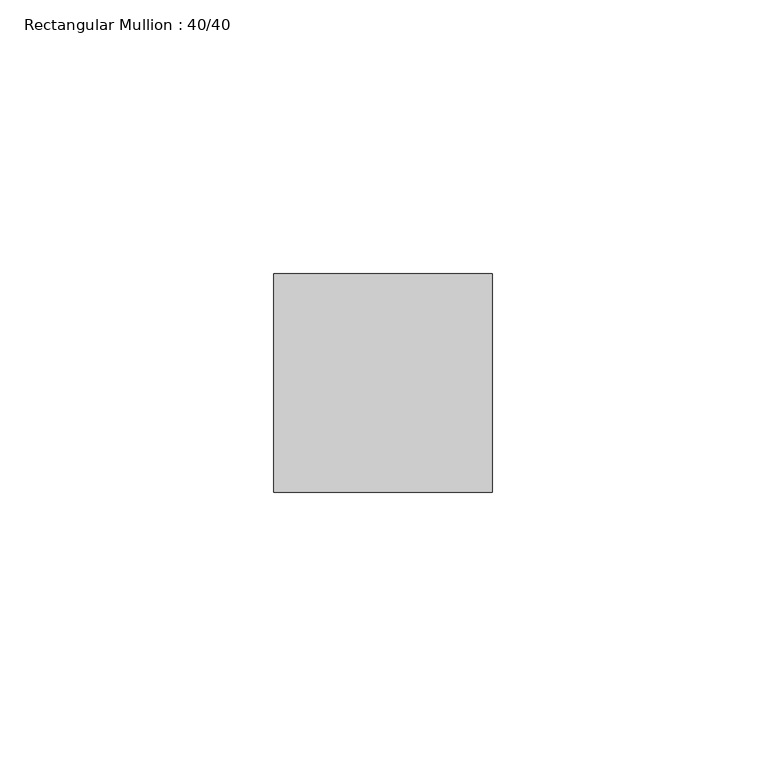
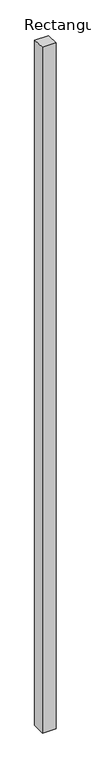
"""IFC4 building model written with IfcOpenShell, lengths in millimetres: member geometry, Rectangular Mullion : 40/40."""

from ifc_helpers import new_model, si_unit, frame, origin, place, context, project, spatial, polyline, outline, extrude, source, transform, mapped, element, save


def rectangular_mullion_40_40_5d815b55(model_context):
    return source(origin(), model_context, "Body", "SweptSolid", [
        extrude(outline(polyline([(-20.0, 1.3985362), (20.0, -1.3985362), (20.0, -2130.1890334), (-20.0, -2130.1890334), (-20.0, 1.3985362)])), frame((-20.0, 0.0, 0.0), z_axis=(1.0, 0.0, 0.0), x_axis=(0.0, 1.0, 0.0)), (0.0, 0.0, 1.0), 40.0),
    ])


if __name__ == "__main__":
    model = new_model("IFC4")
    model_context = context("Model", 3, world=origin())
    ifc_project = project(units=[si_unit("LENGTHUNIT", "METRE", prefix="MILLI")], contexts=[model_context])
    site = spatial("IfcSite", under=ifc_project)
    building = spatial("IfcBuilding", under=site)
    placement = place(None, origin())
    rectangular_mullion_40_40_shape = rectangular_mullion_40_40_5d815b55(model_context)
    element("IfcMember", 1, ObjectType="Rectangular Mullion : 40/40", at=placement, inside=building, context=model_context, shape_type="MappedRepresentation", body=[
        mapped(rectangular_mullion_40_40_shape, transform((0.0, 0.0, 0.0), x_axis=(1.0, 0.0, 0.0), y_axis=(0.0, 1.0, 0.0), z_axis=(0.0, 0.0, 1.0))),
    ])
    save(model, "model.ifc")
